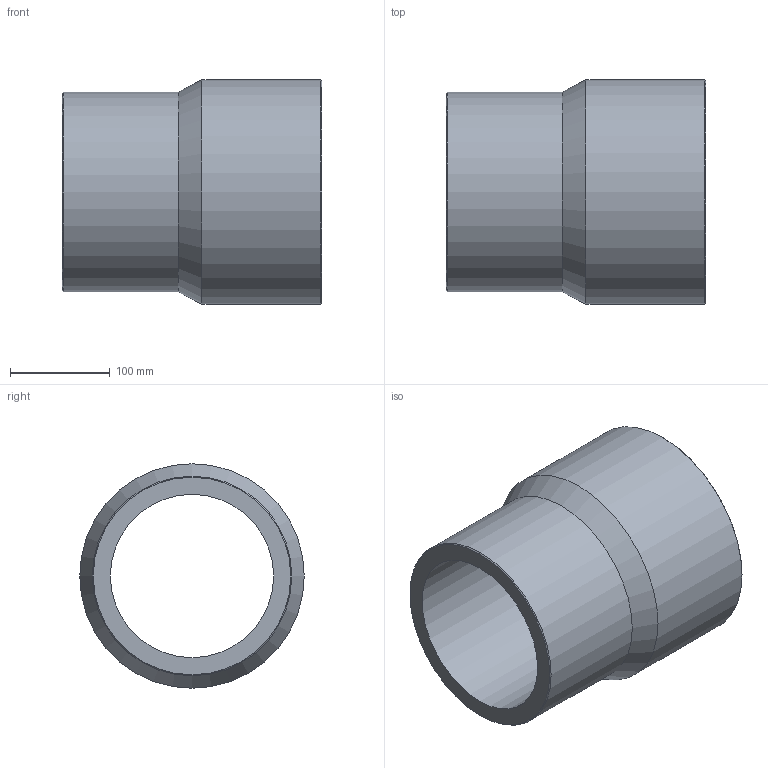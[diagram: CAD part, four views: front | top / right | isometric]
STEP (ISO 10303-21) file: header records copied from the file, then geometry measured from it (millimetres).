
FILE_DESCRIPTION(/* description */ ('Unknown'),/* implementation_level */ '2;1');
FILE_NAME(/* name */ 'RP225200C',/* time_stamp */ '2021-09-17T15:25:43+02:00',/* author */ ('Unknown'),/* organization */ ('Unknown'),/* preprocessor_version */ 'ST-DEVELOPER v16.7',/* originating_system */ 'Solid Edge',/* authorisation */ 'Unknown');
FILE_SCHEMA (('AUTOMOTIVE_DESIGN {1 0 10303 214 3 1 1}'));
Length unit declared in the file: millimetre
Products named in the file (1): RP225200C
Bounding box: 260 x 225 x 225 mm (x, y, z)
Volume: 3114979.4 mm3; surface area: 341278.6 mm2
Topology: 1 solids, 1 shells, 10 faces, 19 edges, 11 vertices
Faces by surface type: cylinder 4, cone 4, plane 2
Full cylindrical faces by diameter (mm): 163.6 x1, 184 x1, 200 x1, 225 x1
Entity records: 238 total; most frequent: DIRECTION 42, CARTESIAN_POINT 31, AXIS2_PLACEMENT_3D 21, ORIENTED_EDGE 20, EDGE_LOOP 20, FACE_BOUND 20, EDGE_CURVE 10, VERTEX_POINT 10
